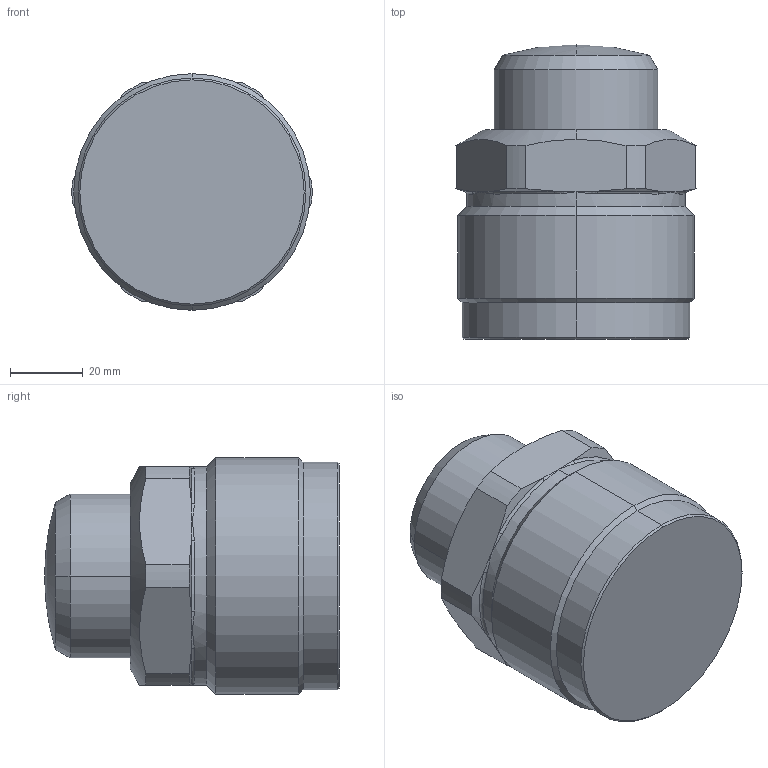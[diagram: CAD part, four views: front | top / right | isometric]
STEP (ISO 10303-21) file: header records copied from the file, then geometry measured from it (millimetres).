
FILE_DESCRIPTION((' '),'2;1');
FILE_NAME( 'CMC40-16R.x_t.stp', '2024-08-27T13:58:41', (' '), ('--- Datakit www.datakit.com---'), ' Datakit CrossCadWare V2024.1 Dec 21 2023', 'Mastercam 2025', ' ');
FILE_SCHEMA(('AUTOMOTIVE_DESIGN { 1 0 10303 214 1 1 1 1 }'));
Length unit declared in the file: millimetre
Products named in the file (1): CMC40-16R
Bounding box: 65.97 x 81 x 65 mm (x, y, z)
Volume: 188237.8 mm3; surface area: 25713.4 mm2
Topology: 2 solids, 2 shells, 62 faces, 155 edges, 84 vertices
Faces by surface type: cylinder 16, cone 16, bspline 12, plane 10, torus 6, sphere 2
Entity records: 3657 total; most frequent: CARTESIAN_POINT 2296, ORIENTED_EDGE 282, DIRECTION 264, EDGE_CURVE 141, AXIS2_PLACEMENT_3D 116, VERTEX_POINT 84, CIRCLE 65, EDGE_LOOP 63
